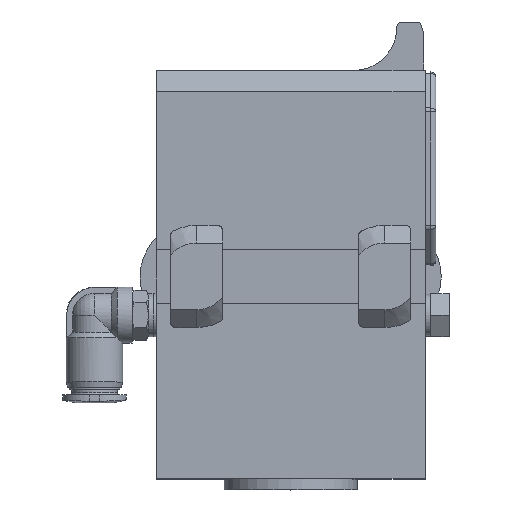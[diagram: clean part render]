
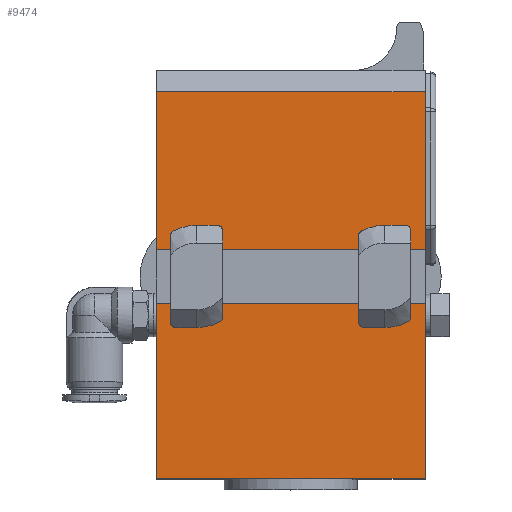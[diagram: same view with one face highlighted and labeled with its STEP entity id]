
A CAD part, top view. The second image highlights one B-rep face of the part: STEP entity #9474.
In plain terms, the highlighted planar face has unit normal (0, 0, 1).
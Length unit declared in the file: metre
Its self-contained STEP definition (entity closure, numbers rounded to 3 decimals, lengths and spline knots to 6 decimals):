
#916 = CARTESIAN_POINT ( 'NONE',  ( 0.0476, 0.03765, 0.04 ) ) ;
#1496 = DIRECTION ( 'NONE',  ( -1., 0., 0. ) ) ;
#1637 = LINE ( 'NONE', #18460, #16341 ) ;
#2001 = FACE_BOUND ( 'NONE', #4879, .T. ) ;
#3259 = ORIENTED_EDGE ( 'NONE', *, *, #11018, .T. ) ;
#3587 = CARTESIAN_POINT ( 'NONE',  ( 0., 0.076, 0.04 ) ) ;
#3991 = VERTEX_POINT ( 'NONE', #24309 ) ;
#4476 = ORIENTED_EDGE ( 'NONE', *, *, #9915, .T. ) ;
#4879 = EDGE_LOOP ( 'NONE', ( #11463 ) ) ;
#6238 = VERTEX_POINT ( 'NONE', #17538 ) ;
#6551 = FACE_OUTER_BOUND ( 'NONE', #11496, .T. ) ;
#6665 = AXIS2_PLACEMENT_3D ( 'NONE', #11189, #11118, #11059 ) ;
#6777 = CARTESIAN_POINT ( 'NONE',  ( 0.05, 0., 0.04 ) ) ;
#6825 = VERTEX_POINT ( 'NONE', #11927 ) ;
#6848 = ORIENTED_EDGE ( 'NONE', *, *, #21523, .F. ) ;
#6875 = EDGE_CURVE ( 'NONE', #10004, #10004, #21043, .T. ) ;
#6991 = DIRECTION ( 'NONE',  ( 0., -1., 0. ) ) ;
#7337 = DIRECTION ( 'NONE',  ( 1., 0., 0. ) ) ;
#7528 = CIRCLE ( 'NONE', #21433, 0.0051 ) ;
#8298 = VECTOR ( 'NONE', #8693, 1. ) ;
#8693 = DIRECTION ( 'NONE',  ( 0., 1., 0. ) ) ;
#8931 = LINE ( 'NONE', #9178, #13375 ) ;
#9178 = CARTESIAN_POINT ( 'NONE',  ( 0., 0.072, 0.04 ) ) ;
#9327 = VERTEX_POINT ( 'NONE', #12627 ) ;
#9474 = ADVANCED_FACE ( 'NONE', ( #2001, #11642, #6551 ), #20912, .F. ) ;
#9915 = EDGE_CURVE ( 'NONE', #9327, #14904, #8931, .T. ) ;
#10004 = VERTEX_POINT ( 'NONE', #916 ) ;
#10561 = CARTESIAN_POINT ( 'NONE',  ( 0.0075, 0.03765, 0.04 ) ) ;
#10569 = EDGE_CURVE ( 'NONE', #6825, #9327, #23617, .T. ) ;
#10705 = EDGE_CURVE ( 'NONE', #6238, #6825, #10971, .T. ) ;
#10945 = CARTESIAN_POINT ( 'NONE',  ( 0., 0.072, 0.04 ) ) ;
#10971 = LINE ( 'NONE', #18824, #20623 ) ;
#11018 = EDGE_CURVE ( 'NONE', #14904, #6238, #1637, .T. ) ;
#11059 = DIRECTION ( 'NONE',  ( 1., 0., 0. ) ) ;
#11118 = DIRECTION ( 'NONE',  ( 0., 0., 1. ) ) ;
#11189 = CARTESIAN_POINT ( 'NONE',  ( 0.0425, 0.03765, 0.04 ) ) ;
#11293 = DIRECTION ( 'NONE',  ( -1., 0., 0. ) ) ;
#11463 = ORIENTED_EDGE ( 'NONE', *, *, #6875, .F. ) ;
#11496 = EDGE_LOOP ( 'NONE', ( #12619, #4476, #3259, #13101 ) ) ;
#11642 = FACE_BOUND ( 'NONE', #20817, .T. ) ;
#11927 = CARTESIAN_POINT ( 'NONE',  ( 0.05, 0., 0.04 ) ) ;
#12463 = DIRECTION ( 'NONE',  ( 1., 0., 0. ) ) ;
#12619 = ORIENTED_EDGE ( 'NONE', *, *, #10569, .T. ) ;
#12627 = CARTESIAN_POINT ( 'NONE',  ( 0.05, 0.072, 0.04 ) ) ;
#13101 = ORIENTED_EDGE ( 'NONE', *, *, #10705, .T. ) ;
#13375 = VECTOR ( 'NONE', #1496, 1. ) ;
#14904 = VERTEX_POINT ( 'NONE', #10945 ) ;
#16341 = VECTOR ( 'NONE', #6991, 1. ) ;
#17538 = CARTESIAN_POINT ( 'NONE',  ( 0., 0., 0.04 ) ) ;
#18460 = CARTESIAN_POINT ( 'NONE',  ( 0., 0., 0.04 ) ) ;
#18739 = AXIS2_PLACEMENT_3D ( 'NONE', #3587, #22807, #11293 ) ;
#18824 = CARTESIAN_POINT ( 'NONE',  ( 0., 0., 0.04 ) ) ;
#20623 = VECTOR ( 'NONE', #7337, 1. ) ;
#20817 = EDGE_LOOP ( 'NONE', ( #6848 ) ) ;
#20912 = PLANE ( 'NONE',  #18739 ) ;
#21043 = CIRCLE ( 'NONE', #6665, 0.0051 ) ;
#21433 = AXIS2_PLACEMENT_3D ( 'NONE', #10561, #24000, #12463 ) ;
#21523 = EDGE_CURVE ( 'NONE', #3991, #3991, #7528, .T. ) ;
#22807 = DIRECTION ( 'NONE',  ( 0., 0., -1. ) ) ;
#23617 = LINE ( 'NONE', #6777, #8298 ) ;
#24000 = DIRECTION ( 'NONE',  ( 0., 0., 1. ) ) ;
#24309 = CARTESIAN_POINT ( 'NONE',  ( 0.0126, 0.03765, 0.04 ) ) ;
